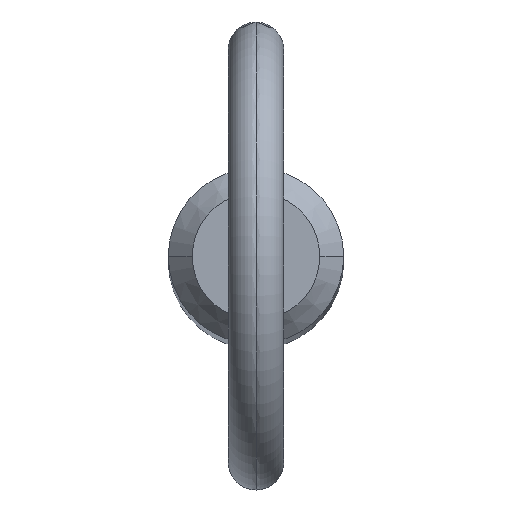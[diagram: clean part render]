
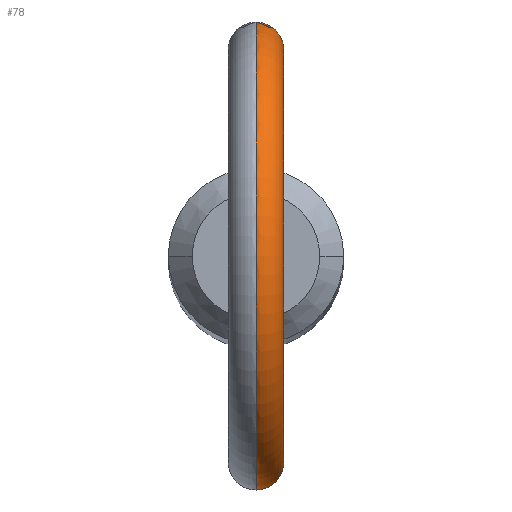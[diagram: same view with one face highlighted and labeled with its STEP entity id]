
A CAD part, top view. The second image highlights one B-rep face of the part: STEP entity #78.
In plain terms, the highlighted toroidal (fillet/blend) face has major radius 11.2 mm and minor radius 1.5 mm.
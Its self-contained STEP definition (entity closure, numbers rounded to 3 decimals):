
#9 = DIRECTION ( 'NONE',  ( 0., 0., -1. ) ) ;
#14 = CARTESIAN_POINT ( 'NONE',  ( 1.178, -4.613, 138.676 ) ) ;
#18 = ORIENTED_EDGE ( 'NONE', *, *, #261, .F. ) ;
#19 = CARTESIAN_POINT ( 'NONE',  ( 1.492, -4.52, 139.848 ) ) ;
#20 = CARTESIAN_POINT ( 'NONE',  ( 0.795, 4.697, 138.328 ) ) ;
#23 = CARTESIAN_POINT ( 'NONE',  ( 1.239, 4.596, 138.759 ) ) ;
#27 = CARTESIAN_POINT ( 'NONE',  ( 0., 4.76, 141.448 ) ) ;
#39 = VERTEX_POINT ( 'NONE', #27 ) ;
#45 = CARTESIAN_POINT ( 'NONE',  ( 0., 0., 149.9 ) ) ;
#54 = CARTESIAN_POINT ( 'NONE',  ( 0.687, -4.711, 141.235 ) ) ;
#56 = CARTESIAN_POINT ( 'NONE',  ( 1.499, -4.518, 139.537 ) ) ;
#57 = CARTESIAN_POINT ( 'NONE',  ( 1.385, 4.554, 139.03 ) ) ;
#62 = CARTESIAN_POINT ( 'NONE',  ( 0.207, 4.757, 138.136 ) ) ;
#69 = CARTESIAN_POINT ( 'NONE',  ( 0., 0., 149.9 ) ) ;
#74 = CARTESIAN_POINT ( 'NONE',  ( 0.415, 4.745, 141.388 ) ) ;
#78 = ADVANCED_FACE ( 'NONE', ( #345 ), #239, .T. ) ;
#82 = EDGE_CURVE ( 'NONE', #39, #400, #234, .T. ) ;
#88 = CARTESIAN_POINT ( 'NONE',  ( 0.797, -4.697, 138.329 ) ) ;
#91 = CARTESIAN_POINT ( 'NONE',  ( 1.45, -4.534, 139.228 ) ) ;
#94 = CARTESIAN_POINT ( 'NONE',  ( 1.503, -4.517, 139.64 ) ) ;
#96 = CARTESIAN_POINT ( 'NONE',  ( 0.925, -4.67, 141.039 ) ) ;
#111 = VERTEX_POINT ( 'NONE', #407 ) ;
#123 = CARTESIAN_POINT ( 'NONE',  ( 0.411, -4.743, 138.177 ) ) ;
#124 = CARTESIAN_POINT ( 'NONE',  ( 0.997, -4.655, 140.964 ) ) ;
#125 = CARTESIAN_POINT ( 'NONE',  ( 1.344, -4.567, 138.939 ) ) ;
#126 = AXIS2_PLACEMENT_3D ( 'NONE', #454, #410, #156 ) ;
#129 = CARTESIAN_POINT ( 'NONE',  ( 0.105, -4.76, 138.126 ) ) ;
#132 = CARTESIAN_POINT ( 'NONE',  ( 1.292, 4.582, 140.544 ) ) ;
#138 = CARTESIAN_POINT ( 'NONE',  ( 0.208, 4.76, 141.448 ) ) ;
#139 = CARTESIAN_POINT ( 'NONE',  ( 0., 4.76, 138.126 ) ) ;
#142 = CARTESIAN_POINT ( 'NONE',  ( 0.925, 4.67, 141.04 ) ) ;
#146 = CARTESIAN_POINT ( 'NONE',  ( 0.685, 4.711, 141.236 ) ) ;
#156 = DIRECTION ( 'NONE',  ( 0., 0., -1. ) ) ;
#166 = CARTESIAN_POINT ( 'NONE',  ( 1.19, -4.611, 140.724 ) ) ;
#167 = CARTESIAN_POINT ( 'NONE',  ( 0., -4.76, 141.448 ) ) ;
#173 = CARTESIAN_POINT ( 'NONE',  ( 0., 4.76, 138.126 ) ) ;
#185 = ORIENTED_EDGE ( 'NONE', *, *, #384, .F. ) ;
#208 = CARTESIAN_POINT ( 'NONE',  ( 0.506, -4.734, 141.337 ) ) ;
#209 = CARTESIAN_POINT ( 'NONE',  ( 0.409, -4.743, 141.378 ) ) ;
#210 = CARTESIAN_POINT ( 'NONE',  ( 0.968, 4.663, 138.449 ) ) ;
#215 = CIRCLE ( 'NONE', #251, 12.7 ) ;
#217 = CARTESIAN_POINT ( 'NONE',  ( 0., 4.76, 141.448 ) ) ;
#224 = DIRECTION ( 'NONE',  ( 1., 0., 0. ) ) ;
#234 = CIRCLE ( 'NONE', #126, 9.7 ) ;
#239 = TOROIDAL_SURFACE ( 'NONE', #293, 11.2, 1.5 ) ;
#244 = CARTESIAN_POINT ( 'NONE',  ( 1.24, -4.596, 138.76 ) ) ;
#251 = AXIS2_PLACEMENT_3D ( 'NONE', #45, #324, #9 ) ;
#252 = CARTESIAN_POINT ( 'NONE',  ( 1.478, -4.525, 139.952 ) ) ;
#253 = CARTESIAN_POINT ( 'NONE',  ( 1.434, -4.539, 140.154 ) ) ;
#258 = CARTESIAN_POINT ( 'NONE',  ( 1.484, 4.523, 139.328 ) ) ;
#260 = CARTESIAN_POINT ( 'NONE',  ( 0.208, -4.757, 138.136 ) ) ;
#261 = EDGE_CURVE ( 'NONE', #400, #111, #319, .T. ) ;
#280 = DIRECTION ( 'NONE',  ( 0., 0., -1. ) ) ;
#290 = CARTESIAN_POINT ( 'NONE',  ( 0.97, -4.662, 138.45 ) ) ;
#293 = AXIS2_PLACEMENT_3D ( 'NONE', #69, #224, #280 ) ;
#295 = CARTESIAN_POINT ( 'NONE',  ( 0.77, -4.698, 141.175 ) ) ;
#301 = CARTESIAN_POINT ( 'NONE',  ( 1.343, 4.567, 138.937 ) ) ;
#302 = CARTESIAN_POINT ( 'NONE',  ( 0., -4.76, 138.126 ) ) ;
#303 = CARTESIAN_POINT ( 'NONE',  ( 1.508, 4.515, 139.537 ) ) ;
#319 = B_SPLINE_CURVE_WITH_KNOTS ( 'NONE', 3,
 ( #167, #335, #462, #209, #208, #54, #295, #96, #124, #166, #502, #337, #253, #252, #19, #94, #56, #332, #91, #378, #125, #244, #14, #290, #88, #372, #123, #260, #129, #302 ),
 .UNSPECIFIED., .F., .F.,
 ( 4, 2, 2, 2, 2, 2, 2, 2, 2, 2, 2, 2, 2, 2, 4 ),
 ( 0.004, 0.005, 0.005, 0.005, 0.006, 0.006, 0.007, 0.007, 0.007, 0.007, 0.008, 0.008, 0.009, 0.009, 0.009 ),
 .UNSPECIFIED. ) ;
#324 = DIRECTION ( 'NONE',  ( 1., 0., 0. ) ) ;
#327 = ORIENTED_EDGE ( 'NONE', *, *, #82, .F. ) ;
#332 = CARTESIAN_POINT ( 'NONE',  ( 1.473, -4.526, 139.331 ) ) ;
#335 = CARTESIAN_POINT ( 'NONE',  ( 0.104, -4.76, 141.448 ) ) ;
#337 = CARTESIAN_POINT ( 'NONE',  ( 1.404, -4.548, 140.253 ) ) ;
#340 = CARTESIAN_POINT ( 'NONE',  ( 1.487, 4.522, 139.953 ) ) ;
#341 = CARTESIAN_POINT ( 'NONE',  ( 0.411, 4.743, 138.177 ) ) ;
#343 = CARTESIAN_POINT ( 'NONE',  ( 0.511, 4.733, 138.208 ) ) ;
#345 = FACE_OUTER_BOUND ( 'NONE', #396, .T. ) ;
#356 = CARTESIAN_POINT ( 'NONE',  ( 0.996, 4.655, 140.966 ) ) ;
#371 = B_SPLINE_CURVE_WITH_KNOTS ( 'NONE', 3,
 ( #173, #383, #62, #341, #343, #20, #210, #508, #23, #301, #57, #258, #303, #340, #385, #132, #435, #356, #142, #486, #146, #74, #138, #217 ),
 .UNSPECIFIED., .F., .F.,
 ( 4, 2, 2, 2, 2, 2, 2, 2, 2, 2, 2, 4 ),
 ( 0.001, 0.001, 0.001, 0.002, 0.002, 0.002, 0.003, 0.004, 0.004, 0.005, 0.005, 0.006 ),
 .UNSPECIFIED. ) ;
#372 = CARTESIAN_POINT ( 'NONE',  ( 0.512, -4.733, 138.208 ) ) ;
#378 = CARTESIAN_POINT ( 'NONE',  ( 1.385, -4.554, 139.032 ) ) ;
#383 = CARTESIAN_POINT ( 'NONE',  ( 0.104, 4.76, 138.126 ) ) ;
#384 = EDGE_CURVE ( 'NONE', #394, #39, #371, .T. ) ;
#385 = CARTESIAN_POINT ( 'NONE',  ( 1.441, 4.537, 140.159 ) ) ;
#394 = VERTEX_POINT ( 'NONE', #139 ) ;
#396 = EDGE_LOOP ( 'NONE', ( #185, #408, #18, #327 ) ) ;
#397 = CARTESIAN_POINT ( 'NONE',  ( 0., -4.76, 141.448 ) ) ;
#400 = VERTEX_POINT ( 'NONE', #397 ) ;
#407 = CARTESIAN_POINT ( 'NONE',  ( 0., -4.76, 138.126 ) ) ;
#408 = ORIENTED_EDGE ( 'NONE', *, *, #520, .T. ) ;
#410 = DIRECTION ( 'NONE',  ( 1., 0., 0. ) ) ;
#435 = CARTESIAN_POINT ( 'NONE',  ( 1.188, 4.611, 140.727 ) ) ;
#454 = CARTESIAN_POINT ( 'NONE',  ( 0., 0., 149.9 ) ) ;
#462 = CARTESIAN_POINT ( 'NONE',  ( 0.209, -4.756, 141.434 ) ) ;
#486 = CARTESIAN_POINT ( 'NONE',  ( 0.771, 4.698, 141.175 ) ) ;
#502 = CARTESIAN_POINT ( 'NONE',  ( 1.293, -4.582, 140.542 ) ) ;
#508 = CARTESIAN_POINT ( 'NONE',  ( 1.177, 4.613, 138.675 ) ) ;
#520 = EDGE_CURVE ( 'NONE', #394, #111, #215, .T. ) ;
